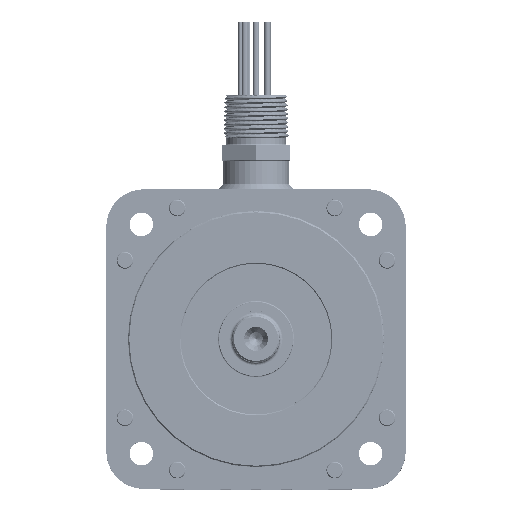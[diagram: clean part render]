
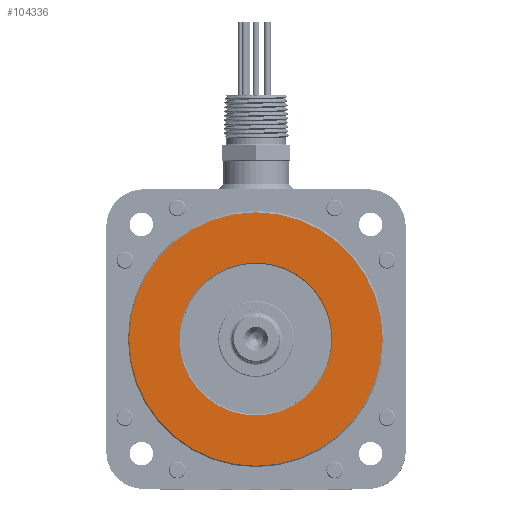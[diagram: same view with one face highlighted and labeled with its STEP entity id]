
A CAD part, top view. The second image highlights one B-rep face of the part: STEP entity #104336.
In plain terms, the highlighted planar face has unit normal (0, 0, 1).
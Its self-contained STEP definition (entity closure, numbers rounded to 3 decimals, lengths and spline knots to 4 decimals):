
#101 = CARTESIAN_POINT ( 'NONE',  ( 1.5305, 0., 0. ) ) ;
#1418 = ORIENTED_EDGE ( 'NONE', *, *, #145112, .T. ) ;
#8101 = DIRECTION ( 'NONE',  ( 1., 0., 0. ) ) ;
#10886 = EDGE_CURVE ( 'NONE', #93987, #152399, #106179, .T. ) ;
#24264 = DIRECTION ( 'NONE',  ( 1., 0., 0. ) ) ;
#36787 = DIRECTION ( 'NONE',  ( 0., 0., 1. ) ) ;
#43329 = EDGE_LOOP ( 'NONE', ( #151886, #125317 ) ) ;
#44739 = CARTESIAN_POINT ( 'NONE',  ( 0., 0., 0. ) ) ;
#51955 = CIRCLE ( 'NONE', #144897, 2.5391 ) ;
#53686 = DIRECTION ( 'NONE',  ( 1., 0., 0. ) ) ;
#63281 = CARTESIAN_POINT ( 'NONE',  ( -1.5305, 0., 0. ) ) ;
#67831 = AXIS2_PLACEMENT_3D ( 'NONE', #138194, #36787, #24264 ) ;
#69485 = CARTESIAN_POINT ( 'NONE',  ( 0., 0., 0. ) ) ;
#76917 = VERTEX_POINT ( 'NONE', #63281 ) ;
#84140 = CIRCLE ( 'NONE', #67831, 1.5305 ) ;
#89225 = CARTESIAN_POINT ( 'NONE',  ( 0., 1.5305, 0. ) ) ;
#91940 = AXIS2_PLACEMENT_3D ( 'NONE', #69485, #118544, #53686 ) ;
#93987 = VERTEX_POINT ( 'NONE', #154839 ) ;
#102499 = PLANE ( 'NONE',  #150171 ) ;
#102644 = CIRCLE ( 'NONE', #91940, 1.5305 ) ;
#104096 = FACE_OUTER_BOUND ( 'NONE', #130916, .T. ) ;
#104336 = ADVANCED_FACE ( 'NONE', ( #104096, #142353 ), #102499, .T. ) ;
#106179 = CIRCLE ( 'NONE', #130134, 2.5391 ) ;
#107797 = CARTESIAN_POINT ( 'NONE',  ( 0., 0., 0. ) ) ;
#109577 = DIRECTION ( 'NONE',  ( 0., 0., 1. ) ) ;
#117376 = DIRECTION ( 'NONE',  ( 0., 0., 1. ) ) ;
#118544 = DIRECTION ( 'NONE',  ( 0., 0., 1. ) ) ;
#120254 = DIRECTION ( 'NONE',  ( 0., 0., 1. ) ) ;
#122726 = DIRECTION ( 'NONE',  ( 1., 0., 0. ) ) ;
#125317 = ORIENTED_EDGE ( 'NONE', *, *, #164018, .F. ) ;
#126493 = VERTEX_POINT ( 'NONE', #101 ) ;
#128239 = DIRECTION ( 'NONE',  ( 1., 0., 0. ) ) ;
#130134 = AXIS2_PLACEMENT_3D ( 'NONE', #44739, #109577, #8101 ) ;
#130916 = EDGE_LOOP ( 'NONE', ( #1418, #154093 ) ) ;
#138194 = CARTESIAN_POINT ( 'NONE',  ( 0., 0., 0. ) ) ;
#142353 = FACE_BOUND ( 'NONE', #43329, .T. ) ;
#144897 = AXIS2_PLACEMENT_3D ( 'NONE', #107797, #120254, #122726 ) ;
#145112 = EDGE_CURVE ( 'NONE', #152399, #93987, #51955, .T. ) ;
#147536 = EDGE_CURVE ( 'NONE', #126493, #76917, #102644, .T. ) ;
#150171 = AXIS2_PLACEMENT_3D ( 'NONE', #89225, #117376, #128239 ) ;
#150222 = CARTESIAN_POINT ( 'NONE',  ( -2.5391, 0., 0. ) ) ;
#151886 = ORIENTED_EDGE ( 'NONE', *, *, #147536, .F. ) ;
#152399 = VERTEX_POINT ( 'NONE', #150222 ) ;
#154093 = ORIENTED_EDGE ( 'NONE', *, *, #10886, .T. ) ;
#154839 = CARTESIAN_POINT ( 'NONE',  ( 2.5391, 0., 0. ) ) ;
#164018 = EDGE_CURVE ( 'NONE', #76917, #126493, #84140, .T. ) ;
